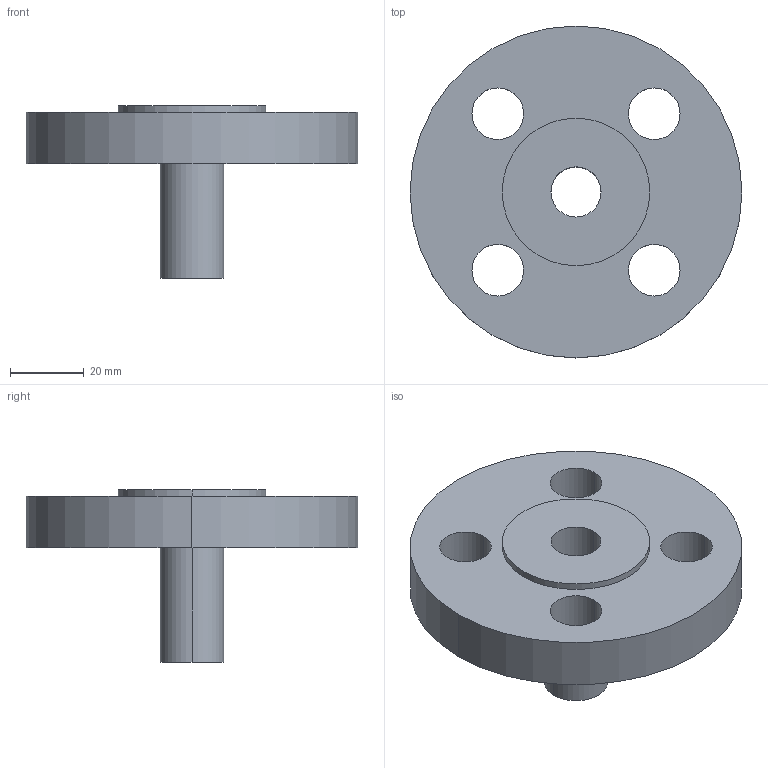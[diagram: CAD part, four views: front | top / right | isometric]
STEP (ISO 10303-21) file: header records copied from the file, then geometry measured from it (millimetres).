
FILE_DESCRIPTION (( 'STEP AP214' ), '1' );
FILE_NAME ('PN40 DN10 Type 02 in 33 - (Type A Face).STEP', '2018-12-29T05:22:23', ( '' ), ( '' ), 'SwSTEP 2.0', 'SolidWorks 2019', '' );
FILE_SCHEMA (( 'AUTOMOTIVE_DESIGN' ));
Length unit declared in the file: millimetre
Products named in the file (1): PN40 DN10 Type 02 in 33 - (Type A Face)
Bounding box: 90 x 90 x 46.8 mm (x, y, z)
Volume: 81460.1 mm3; surface area: 24836.9 mm2
Topology: 2 solids, 2 shells, 27 faces, 62 edges, 40 vertices
Faces by surface type: cylinder 18, plane 5, cone 4
Entity records: 851 total; most frequent: DIRECTION 158, CARTESIAN_POINT 130, ORIENTED_EDGE 124, AXIS2_PLACEMENT_3D 68, EDGE_CURVE 62, EDGE_LOOP 40, CIRCLE 40, VERTEX_POINT 40
